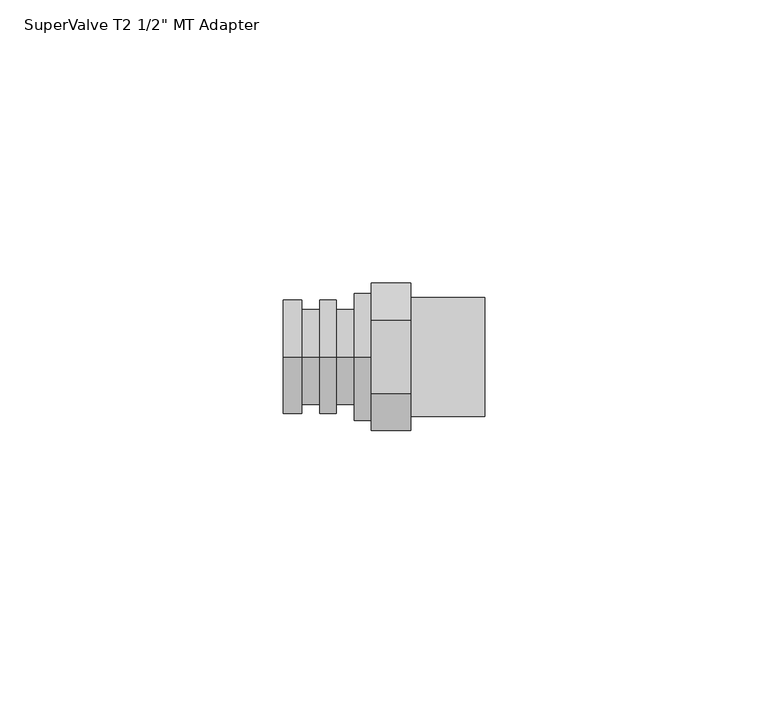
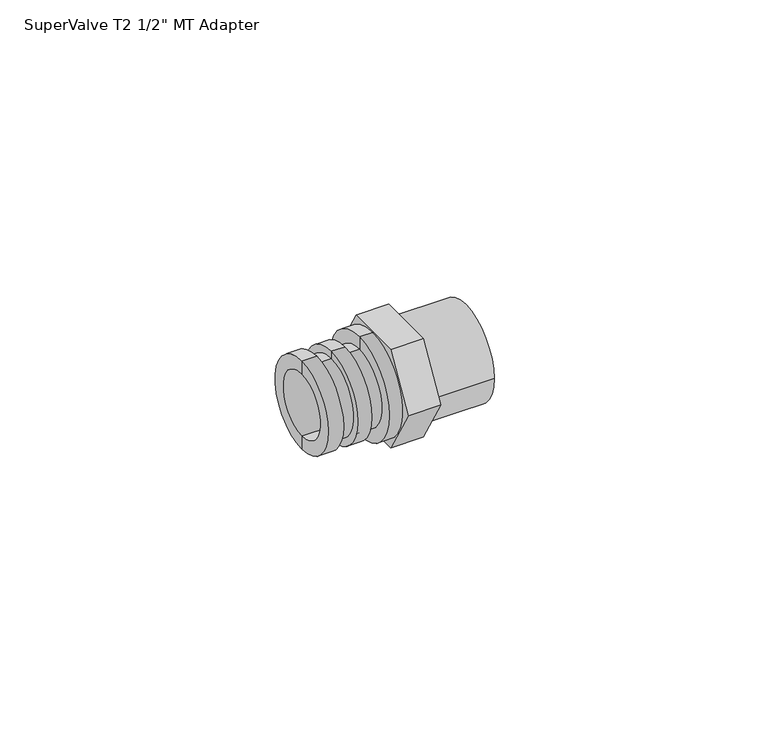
"""IFC4 building model written with IfcOpenShell, lengths in millimetres: valve geometry."""

from ifc_helpers import new_model, si_unit, point, frame, origin, origin_2d, place, context, project, spatial, polyline, circle_curve, trimmed, segment, composite_curve, outline, extrude, source, transform, mapped, element, save
from ifc_brep_helpers import plane_surface, cylinder_surface, revolved_surface, advanced_brep


def valve_6c7f2e19(model_context):
    return source(origin(), model_context, "Body", "SolidModel", [
        extrude(outline(polyline([(-12.9903811, 0.0), (-6.4951905, 11.25), (6.4951905, 11.25), (12.9903811, 0.0), (6.4951905, -11.25), (-6.4951905, -11.25), (-12.9903811, 0.0)])), frame((15.5, 0.0, 0.0), z_axis=(1.0, 0.0, 0.0), x_axis=(0.0, 1.0, 0.0)), (0.0, 0.0, 1.0), 7.0),
        extrude(outline(composite_curve([segment(trimmed(circle_curve(origin_2d(), 10.5), [point((-10.5, 0.0))], [point((10.5, 0.0))], False, "CARTESIAN"), True, "CONTINUOUS"), segment(trimmed(circle_curve(origin_2d(), 10.5), [point((10.5, 0.0))], [point((-10.5, 0.0))], False, "CARTESIAN"), True, "CONTINUOUS")], self_intersect=False), holes=[composite_curve([segment(trimmed(circle_curve(origin_2d(), 6.0), [point((-6.0, 0.0))], [point((6.0, 0.0))], True, "CARTESIAN"), True, "CONTINUOUS"), segment(trimmed(circle_curve(origin_2d(), 6.0), [point((6.0, 0.0))], [point((-6.0, 0.0))], True, "CARTESIAN"), True, "CONTINUOUS")], self_intersect=False)]), frame((22.5, 0.0, 0.0), z_axis=(1.0, 0.0, 0.0), x_axis=(0.0, 1.0, 0.0)), (0.0, 0.0, 1.0), 13.0),
        advanced_brep(
        [(12.5, 0.0, -11.25), (12.5, 0.0, 11.25), (15.5, 0.0, 11.25), (15.5, 0.0, -11.25), (15.5, 0.0, 6.0), (15.5, 0.0, -6.0), (12.5, 0.0, -6.0), (12.5, 0.0, 6.0), (12.5, 0.0, 7.1), (12.5, 0.0, -7.1), (12.5, 0.0, -8.4), (12.5, 0.0, 8.4), (9.3, 0.0, -8.4), (9.3, 0.0, 8.4), (9.3, 0.0, -10.05), (9.3, 0.0, 10.05), (6.4, 0.0, -10.05), (6.4, 0.0, 10.05), (6.4, 0.0, -8.4), (6.4, 0.0, 8.4), (3.2, 0.0, -8.4), (3.2, 0.0, 8.4), (3.2, 0.0, -10.05), (3.2, 0.0, 10.05), (0.0, 0.0, -10.05), (0.0, 0.0, 10.05), (0.0, 0.0, -7.1), (0.0, 0.0, 7.1)],
        [
            (0, 1, circle_curve(frame((12.5, 0.0, 0.0), z_axis=(1.0, 0.0, 0.0), x_axis=(0.0, 0.0, 1.0)), 11.25)),
            (1, 2),
            (2, 3, circle_curve(frame((15.5, 0.0, 0.0), z_axis=(-1.0, 0.0, 0.0), x_axis=(0.0, 0.0, 1.0)), 11.25)),
            (3, 0),
            (1, 0, circle_curve(frame((12.5, 0.0, 0.0), z_axis=(1.0, 0.0, 0.0), x_axis=(0.0, 0.0, 1.0)), 11.25)),
            (3, 2, circle_curve(frame((15.5, 0.0, 0.0), z_axis=(-1.0, 0.0, 0.0), x_axis=(0.0, 0.0, 1.0)), 11.25)),
            (2, 4),
            (4, 5, circle_curve(frame((15.5, 0.0, 0.0), z_axis=(-1.0, 0.0, 0.0), x_axis=(0.0, 0.0, 1.0)), 6.0)),
            (5, 3),
            (5, 4, circle_curve(frame((15.5, 0.0, 0.0), z_axis=(-1.0, 0.0, 0.0), x_axis=(0.0, 0.0, 1.0)), 6.0)),
            (6, 7, circle_curve(frame((12.5, 0.0, 0.0), z_axis=(1.0, 0.0, 0.0), x_axis=(0.0, 0.0, 1.0)), 6.0)),
            (7, 8),
            (8, 9, circle_curve(frame((12.5, 0.0, 0.0), z_axis=(-1.0, 0.0, 0.0), x_axis=(0.0, 0.0, 1.0)), 7.1)),
            (9, 6),
            (7, 6, circle_curve(frame((12.5, 0.0, 0.0), z_axis=(1.0, 0.0, 0.0), x_axis=(0.0, 0.0, 1.0)), 6.0)),
            (9, 8, circle_curve(frame((12.5, 0.0, 0.0), z_axis=(-1.0, 0.0, 0.0), x_axis=(0.0, 0.0, 1.0)), 7.1)),
            (10, 11, circle_curve(frame((12.5, 0.0, 0.0), z_axis=(1.0, 0.0, 0.0), x_axis=(0.0, 0.0, 1.0)), 8.4)),
            (11, 1),
            (0, 10),
            (11, 10, circle_curve(frame((12.5, 0.0, 0.0), z_axis=(1.0, 0.0, 0.0), x_axis=(0.0, 0.0, 1.0)), 8.4)),
            (12, 13, circle_curve(frame((9.3, 0.0, 0.0), z_axis=(1.0, 0.0, 0.0), x_axis=(0.0, 0.0, 1.0)), 8.4)),
            (13, 11),
            (10, 12),
            (13, 12, circle_curve(frame((9.3, 0.0, 0.0), z_axis=(1.0, 0.0, 0.0), x_axis=(0.0, 0.0, 1.0)), 8.4)),
            (14, 15, circle_curve(frame((9.3, 0.0, 0.0), z_axis=(1.0, 0.0, 0.0), x_axis=(0.0, 0.0, 1.0)), 10.05)),
            (15, 13),
            (12, 14),
            (15, 14, circle_curve(frame((9.3, 0.0, 0.0), z_axis=(1.0, 0.0, 0.0), x_axis=(0.0, 0.0, 1.0)), 10.05)),
            (16, 17, circle_curve(frame((6.4, 0.0, 0.0), z_axis=(1.0, 0.0, 0.0), x_axis=(0.0, 0.0, 1.0)), 10.05)),
            (17, 15),
            (14, 16),
            (17, 16, circle_curve(frame((6.4, 0.0, 0.0), z_axis=(1.0, 0.0, 0.0), x_axis=(0.0, 0.0, 1.0)), 10.05)),
            (18, 19, circle_curve(frame((6.4, 0.0, 0.0), z_axis=(1.0, 0.0, 0.0), x_axis=(0.0, 0.0, 1.0)), 8.4)),
            (19, 17),
            (16, 18),
            (19, 18, circle_curve(frame((6.4, 0.0, 0.0), z_axis=(1.0, 0.0, 0.0), x_axis=(0.0, 0.0, 1.0)), 8.4)),
            (20, 21, circle_curve(frame((3.2, 0.0, 0.0), z_axis=(1.0, 0.0, 0.0), x_axis=(0.0, 0.0, 1.0)), 8.4)),
            (21, 19),
            (18, 20),
            (21, 20, circle_curve(frame((3.2, 0.0, 0.0), z_axis=(1.0, 0.0, 0.0), x_axis=(0.0, 0.0, 1.0)), 8.4)),
            (22, 23, circle_curve(frame((3.2, 0.0, 0.0), z_axis=(1.0, 0.0, 0.0), x_axis=(0.0, 0.0, 1.0)), 10.05)),
            (23, 21),
            (20, 22),
            (23, 22, circle_curve(frame((3.2, 0.0, 0.0), z_axis=(1.0, 0.0, 0.0), x_axis=(0.0, 0.0, 1.0)), 10.05)),
            (24, 25, circle_curve(frame((0.0, 0.0, 0.0), z_axis=(1.0, 0.0, 0.0), x_axis=(0.0, 0.0, 1.0)), 10.05)),
            (25, 23),
            (22, 24),
            (25, 24, circle_curve(frame((0.0, 0.0, 0.0), z_axis=(1.0, 0.0, 0.0), x_axis=(0.0, 0.0, 1.0)), 10.05)),
            (26, 27, circle_curve(frame((0.0, 0.0, 0.0), z_axis=(1.0, 0.0, 0.0), x_axis=(0.0, 0.0, 1.0)), 7.1)),
            (27, 25),
            (24, 26),
            (27, 26, circle_curve(frame((0.0, 0.0, 0.0), z_axis=(1.0, 0.0, 0.0), x_axis=(0.0, 0.0, 1.0)), 7.1)),
            (8, 27),
            (26, 9),
            (4, 7),
            (6, 5),
        ],
        [
            cylinder_surface(frame((19.0, 0.0, 0.0), z_axis=(-1.0, 0.0, 0.0), x_axis=(0.0, 0.0, 1.0)), 11.25),
            plane_surface(frame((15.5, 0.0, 0.0), z_axis=(1.0, 0.0, 0.0), x_axis=(0.0, 0.0, 1.0))),
            plane_surface(frame((12.5, 0.0, 0.0), z_axis=(-1.0, 0.0, 0.0), x_axis=(0.0, 0.0, 1.0))),
            cylinder_surface(frame((19.0, 0.0, 0.0), z_axis=(-1.0, 0.0, 0.0), x_axis=(0.0, 0.0, 1.0)), 8.4),
            plane_surface(frame((9.3, 0.0, 0.0), z_axis=(1.0, 0.0, 0.0), x_axis=(0.0, 0.0, 1.0))),
            cylinder_surface(frame((19.0, 0.0, 0.0), z_axis=(-1.0, 0.0, 0.0), x_axis=(0.0, 0.0, 1.0)), 10.05),
            plane_surface(frame((6.4, 0.0, 0.0), z_axis=(-1.0, 0.0, 0.0), x_axis=(0.0, 0.0, 1.0))),
            plane_surface(frame((3.2, 0.0, 0.0), z_axis=(1.0, 0.0, 0.0), x_axis=(0.0, 0.0, 1.0))),
            plane_surface(frame((0.0, 0.0, 0.0), z_axis=(-1.0, 0.0, 0.0), x_axis=(0.0, 0.0, 1.0))),
            revolved_surface(polyline([(0.0, 0.0, 7.1), (12.5, 0.0, 7.1)]), (19.0, 0.0, 0.0), (-1.0, 0.0, 0.0)),
            revolved_surface(polyline([(12.5, 0.0, 6.0), (15.5, 0.0, 6.0)]), (19.0, 0.0, 0.0), (-1.0, 0.0, 0.0)),
        ],
        [
            (0, [[1, 2, 3, 4]]),
            (0, [[5, -4, 6, -2]]),
            (1, [[-3, 7, 8, 9]]),
            (1, [[-6, -9, 10, -7]]),
            (2, [[11, 12, 13, 14]]),
            (2, [[15, -14, 16, -12]]),
            (2, [[17, 18, -1, 19]]),
            (2, [[20, -19, -5, -18]]),
            (3, [[21, 22, -17, 23]]),
            (3, [[24, -23, -20, -22]]),
            (4, [[25, 26, -21, 27]]),
            (4, [[28, -27, -24, -26]]),
            (5, [[29, 30, -25, 31]]),
            (5, [[32, -31, -28, -30]]),
            (6, [[33, 34, -29, 35]]),
            (6, [[36, -35, -32, -34]]),
            (3, [[37, 38, -33, 39]]),
            (3, [[40, -39, -36, -38]]),
            (7, [[41, 42, -37, 43]]),
            (7, [[44, -43, -40, -42]]),
            (5, [[45, 46, -41, 47]]),
            (5, [[48, -47, -44, -46]]),
            (8, [[49, 50, -45, 51]]),
            (8, [[52, -51, -48, -50]]),
            (9, [[-13, 53, -49, 54]]),
            (9, [[-16, -54, -52, -53]]),
            (10, [[-8, 55, -11, 56]]),
            (10, [[-10, -56, -15, -55]]),
        ],
    ),
    ])


if __name__ == "__main__":
    model = new_model("IFC4")
    model_context = context("Model", 3, world=origin())
    ifc_project = project(units=[si_unit("LENGTHUNIT", "METRE", prefix="MILLI")], contexts=[model_context])
    site = spatial("IfcSite", under=ifc_project)
    building = spatial("IfcBuilding", under=site)
    placement = place(None, origin())
    valve_shape = valve_6c7f2e19(model_context)
    element("IfcValve", 1, ObjectType="SuperValve T2 MT & FT Adapters : SuperValve T2 1/2\" MT Adapter", at=placement, inside=building, context=model_context, shape_type="MappedRepresentation", body=[
        mapped(valve_shape, transform((0.0, 0.0, 0.0), x_axis=(1.0, 0.0, 0.0), y_axis=(0.0, 1.0, 0.0), z_axis=(0.0, 0.0, 1.0))),
    ])
    save(model, "model.ifc")
